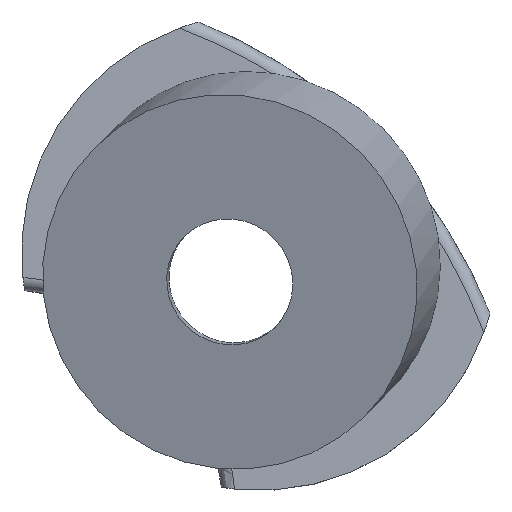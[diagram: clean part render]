
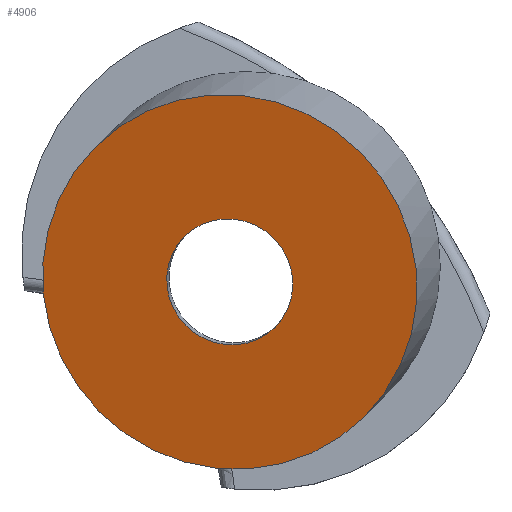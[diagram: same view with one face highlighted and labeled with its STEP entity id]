
A CAD part, top view. The second image highlights one B-rep face of the part: STEP entity #4906.
In plain terms, the highlighted planar face has unit normal (-0.183, -0.183, 0.966).
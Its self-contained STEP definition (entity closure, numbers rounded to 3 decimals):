
#1829 = CYLINDRICAL_SURFACE('',#1830,5.2);
#1830 = AXIS2_PLACEMENT_3D('',#1831,#1832,#1833);
#1831 = CARTESIAN_POINT('',(-0.183,-0.183,
    2.303));
#1832 = DIRECTION('',(0.183,0.183,-0.966));
#1833 = DIRECTION('',(0.683,0.683,0.259));
#3997 = VERTEX_POINT('',#3998);
#3998 = CARTESIAN_POINT('',(2.734,2.734,7.001)
  );
#4019 = EDGE_CURVE('',#3997,#3997,#4020,.T.);
#4020 = SURFACE_CURVE('',#4021,(#4026,#4033),.PCURVE_S1.);
#4021 = CIRCLE('',#4022,5.2);
#4022 = AXIS2_PLACEMENT_3D('',#4023,#4024,#4025);
#4023 = CARTESIAN_POINT('',(-0.818,-0.818,
    5.655));
#4024 = DIRECTION('',(-0.183,-0.183,0.966));
#4025 = DIRECTION('',(0.683,0.683,0.259));
#4026 = PCURVE('',#1829,#4027);
#4027 = DEFINITIONAL_REPRESENTATION('',(#4028),#4032);
#4028 = LINE('',#4029,#4030);
#4029 = CARTESIAN_POINT('',(-0.,-3.47));
#4030 = VECTOR('',#4031,1.);
#4031 = DIRECTION('',(-1.,0.));
#4032 = ( GEOMETRIC_REPRESENTATION_CONTEXT(2) 
PARAMETRIC_REPRESENTATION_CONTEXT() REPRESENTATION_CONTEXT('2D SPACE',''
  ) );
#4033 = PCURVE('',#4034,#4039);
#4034 = PLANE('',#4035);
#4035 = AXIS2_PLACEMENT_3D('',#4036,#4037,#4038);
#4036 = CARTESIAN_POINT('',(-0.818,-0.818,
    5.655));
#4037 = DIRECTION('',(-0.183,-0.183,0.966));
#4038 = DIRECTION('',(0.683,0.683,0.259));
#4039 = DEFINITIONAL_REPRESENTATION('',(#4040),#4044);
#4040 = CIRCLE('',#4041,5.2);
#4041 = AXIS2_PLACEMENT_2D('',#4042,#4043);
#4042 = CARTESIAN_POINT('',(0.,0.));
#4043 = DIRECTION('',(1.,0.));
#4044 = ( GEOMETRIC_REPRESENTATION_CONTEXT(2) 
PARAMETRIC_REPRESENTATION_CONTEXT() REPRESENTATION_CONTEXT('2D SPACE',''
  ) );
#4906 = ADVANCED_FACE('',(#4907,#4910),#4034,.T.);
#4907 = FACE_BOUND('',#4908,.T.);
#4908 = EDGE_LOOP('',(#4909));
#4909 = ORIENTED_EDGE('',*,*,#4019,.T.);
#4910 = FACE_BOUND('',#4911,.T.);
#4911 = EDGE_LOOP('',(#4912));
#4912 = ORIENTED_EDGE('',*,*,#4913,.T.);
#4913 = EDGE_CURVE('',#4914,#4914,#4916,.T.);
#4914 = VERTEX_POINT('',#4915);
#4915 = CARTESIAN_POINT('',(0.377,0.377,6.108
    ));
#4916 = SURFACE_CURVE('',#4917,(#4922,#4933),.PCURVE_S1.);
#4917 = CIRCLE('',#4918,1.75);
#4918 = AXIS2_PLACEMENT_3D('',#4919,#4920,#4921);
#4919 = CARTESIAN_POINT('',(-0.818,-0.818,
    5.655));
#4920 = DIRECTION('',(0.183,0.183,-0.966));
#4921 = DIRECTION('',(0.683,0.683,0.259));
#4922 = PCURVE('',#4034,#4923);
#4923 = DEFINITIONAL_REPRESENTATION('',(#4924),#4932);
#4924 = ( BOUNDED_CURVE() B_SPLINE_CURVE(2,(#4925,#4926,#4927,#4928,
#4929,#4930,#4931),.UNSPECIFIED.,.T.,.F.) B_SPLINE_CURVE_WITH_KNOTS((1,2
    ,2,2,2,1),(-2.094,0.,2.094,4.189,
6.283,8.378),.UNSPECIFIED.) CURVE() 
GEOMETRIC_REPRESENTATION_ITEM() RATIONAL_B_SPLINE_CURVE((1.,0.5,1.,0.5,
1.,0.5,1.)) REPRESENTATION_ITEM('') );
#4925 = CARTESIAN_POINT('',(1.75,0.));
#4926 = CARTESIAN_POINT('',(1.75,-3.031));
#4927 = CARTESIAN_POINT('',(-0.875,-1.516));
#4928 = CARTESIAN_POINT('',(-3.5,0.));
#4929 = CARTESIAN_POINT('',(-0.875,1.516));
#4930 = CARTESIAN_POINT('',(1.75,3.031));
#4931 = CARTESIAN_POINT('',(1.75,0.));
#4932 = ( GEOMETRIC_REPRESENTATION_CONTEXT(2) 
PARAMETRIC_REPRESENTATION_CONTEXT() REPRESENTATION_CONTEXT('2D SPACE',''
  ) );
#4933 = PCURVE('',#4934,#4939);
#4934 = CYLINDRICAL_SURFACE('',#4935,1.75);
#4935 = AXIS2_PLACEMENT_3D('',#4936,#4937,#4938);
#4936 = CARTESIAN_POINT('',(3.66,3.66,
    -17.981));
#4937 = DIRECTION('',(0.183,0.183,-0.966));
#4938 = DIRECTION('',(0.683,0.683,0.259));
#4939 = DEFINITIONAL_REPRESENTATION('',(#4940),#4944);
#4940 = LINE('',#4941,#4942);
#4941 = CARTESIAN_POINT('',(-6.283,-24.47));
#4942 = VECTOR('',#4943,1.);
#4943 = DIRECTION('',(1.,-0.));
#4944 = ( GEOMETRIC_REPRESENTATION_CONTEXT(2) 
PARAMETRIC_REPRESENTATION_CONTEXT() REPRESENTATION_CONTEXT('2D SPACE',''
  ) );
